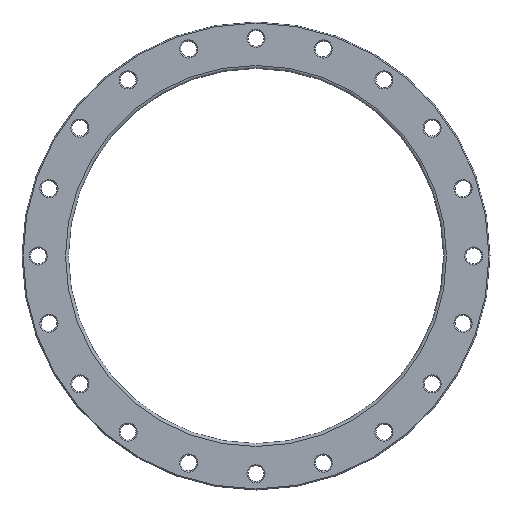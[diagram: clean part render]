
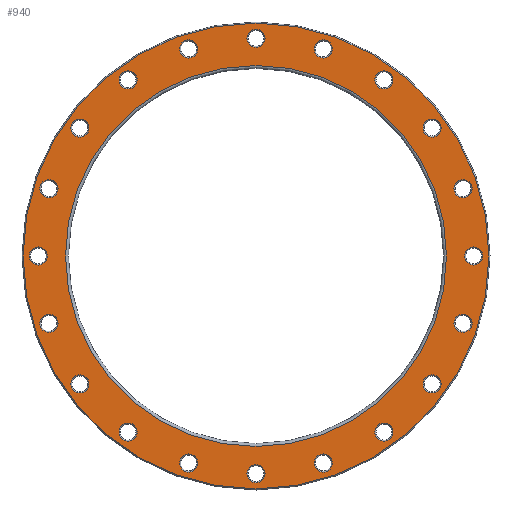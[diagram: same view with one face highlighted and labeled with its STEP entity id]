
A CAD part, front view. The second image highlights one B-rep face of the part: STEP entity #940.
In plain terms, the highlighted planar face has unit normal (0, -1, 0).
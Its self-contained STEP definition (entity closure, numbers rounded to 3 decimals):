
#23=PLANE('',#1104);
#206=ORIENTED_EDGE('',*,*,#325,.T.);
#207=ORIENTED_EDGE('',*,*,#326,.T.);
#208=ORIENTED_EDGE('',*,*,#244,.T.);
#209=ORIENTED_EDGE('',*,*,#248,.T.);
#210=ORIENTED_EDGE('',*,*,#252,.T.);
#211=ORIENTED_EDGE('',*,*,#256,.T.);
#212=ORIENTED_EDGE('',*,*,#260,.T.);
#213=ORIENTED_EDGE('',*,*,#264,.T.);
#214=ORIENTED_EDGE('',*,*,#268,.T.);
#215=ORIENTED_EDGE('',*,*,#272,.T.);
#216=ORIENTED_EDGE('',*,*,#276,.T.);
#217=ORIENTED_EDGE('',*,*,#280,.T.);
#218=ORIENTED_EDGE('',*,*,#284,.T.);
#219=ORIENTED_EDGE('',*,*,#288,.T.);
#220=ORIENTED_EDGE('',*,*,#292,.T.);
#221=ORIENTED_EDGE('',*,*,#296,.T.);
#222=ORIENTED_EDGE('',*,*,#300,.T.);
#223=ORIENTED_EDGE('',*,*,#304,.T.);
#224=ORIENTED_EDGE('',*,*,#308,.T.);
#225=ORIENTED_EDGE('',*,*,#312,.T.);
#226=ORIENTED_EDGE('',*,*,#316,.T.);
#227=ORIENTED_EDGE('',*,*,#327,.T.);
#244=EDGE_CURVE('',#332,#332,#420,.T.);
#248=EDGE_CURVE('',#336,#336,#424,.T.);
#252=EDGE_CURVE('',#340,#340,#428,.T.);
#256=EDGE_CURVE('',#344,#344,#432,.T.);
#260=EDGE_CURVE('',#348,#348,#436,.T.);
#264=EDGE_CURVE('',#352,#352,#440,.T.);
#268=EDGE_CURVE('',#356,#356,#444,.T.);
#272=EDGE_CURVE('',#360,#360,#448,.T.);
#276=EDGE_CURVE('',#364,#364,#452,.T.);
#280=EDGE_CURVE('',#368,#368,#456,.T.);
#284=EDGE_CURVE('',#372,#372,#460,.T.);
#288=EDGE_CURVE('',#376,#376,#464,.T.);
#292=EDGE_CURVE('',#380,#380,#468,.T.);
#296=EDGE_CURVE('',#384,#384,#472,.T.);
#300=EDGE_CURVE('',#388,#388,#476,.T.);
#304=EDGE_CURVE('',#392,#392,#480,.T.);
#308=EDGE_CURVE('',#396,#396,#484,.T.);
#312=EDGE_CURVE('',#400,#400,#488,.T.);
#316=EDGE_CURVE('',#404,#404,#492,.T.);
#325=EDGE_CURVE('',#413,#413,#501,.F.);
#326=EDGE_CURVE('',#414,#414,#502,.T.);
#327=EDGE_CURVE('',#415,#415,#503,.T.);
#332=VERTEX_POINT('',#1439);
#336=VERTEX_POINT('',#1450);
#340=VERTEX_POINT('',#1461);
#344=VERTEX_POINT('',#1472);
#348=VERTEX_POINT('',#1483);
#352=VERTEX_POINT('',#1494);
#356=VERTEX_POINT('',#1505);
#360=VERTEX_POINT('',#1516);
#364=VERTEX_POINT('',#1527);
#368=VERTEX_POINT('',#1538);
#372=VERTEX_POINT('',#1549);
#376=VERTEX_POINT('',#1560);
#380=VERTEX_POINT('',#1571);
#384=VERTEX_POINT('',#1582);
#388=VERTEX_POINT('',#1593);
#392=VERTEX_POINT('',#1604);
#396=VERTEX_POINT('',#1615);
#400=VERTEX_POINT('',#1626);
#404=VERTEX_POINT('',#1637);
#413=VERTEX_POINT('',#1660);
#414=VERTEX_POINT('',#1662);
#415=VERTEX_POINT('',#1664);
#420=CIRCLE('',#965,12.5);
#424=CIRCLE('',#972,12.5);
#428=CIRCLE('',#979,12.5);
#432=CIRCLE('',#986,12.5);
#436=CIRCLE('',#993,12.5);
#440=CIRCLE('',#1000,12.5);
#444=CIRCLE('',#1007,12.5);
#448=CIRCLE('',#1014,12.5);
#452=CIRCLE('',#1021,12.5);
#456=CIRCLE('',#1028,12.5);
#460=CIRCLE('',#1035,12.5);
#464=CIRCLE('',#1042,12.5);
#468=CIRCLE('',#1049,12.5);
#472=CIRCLE('',#1056,12.5);
#476=CIRCLE('',#1063,12.5);
#480=CIRCLE('',#1070,12.5);
#484=CIRCLE('',#1077,12.5);
#488=CIRCLE('',#1084,12.5);
#492=CIRCLE('',#1091,12.5);
#501=CIRCLE('',#1105,321.);
#502=CIRCLE('',#1106,262.5);
#503=CIRCLE('',#1107,12.5);
#646=EDGE_LOOP('',(#206));
#647=EDGE_LOOP('',(#207));
#648=EDGE_LOOP('',(#208));
#649=EDGE_LOOP('',(#209));
#650=EDGE_LOOP('',(#210));
#651=EDGE_LOOP('',(#211));
#652=EDGE_LOOP('',(#212));
#653=EDGE_LOOP('',(#213));
#654=EDGE_LOOP('',(#214));
#655=EDGE_LOOP('',(#215));
#656=EDGE_LOOP('',(#216));
#657=EDGE_LOOP('',(#217));
#658=EDGE_LOOP('',(#218));
#659=EDGE_LOOP('',(#219));
#660=EDGE_LOOP('',(#220));
#661=EDGE_LOOP('',(#221));
#662=EDGE_LOOP('',(#222));
#663=EDGE_LOOP('',(#223));
#664=EDGE_LOOP('',(#224));
#665=EDGE_LOOP('',(#225));
#666=EDGE_LOOP('',(#226));
#667=EDGE_LOOP('',(#227));
#822=FACE_BOUND('',#646,.T.);
#823=FACE_BOUND('',#647,.T.);
#824=FACE_BOUND('',#648,.T.);
#825=FACE_BOUND('',#649,.T.);
#826=FACE_BOUND('',#650,.T.);
#827=FACE_BOUND('',#651,.T.);
#828=FACE_BOUND('',#652,.T.);
#829=FACE_BOUND('',#653,.T.);
#830=FACE_BOUND('',#654,.T.);
#831=FACE_BOUND('',#655,.T.);
#832=FACE_BOUND('',#656,.T.);
#833=FACE_BOUND('',#657,.T.);
#834=FACE_BOUND('',#658,.T.);
#835=FACE_BOUND('',#659,.T.);
#836=FACE_BOUND('',#660,.T.);
#837=FACE_BOUND('',#661,.T.);
#838=FACE_BOUND('',#662,.T.);
#839=FACE_BOUND('',#663,.T.);
#840=FACE_BOUND('',#664,.T.);
#841=FACE_BOUND('',#665,.T.);
#842=FACE_BOUND('',#666,.T.);
#843=FACE_BOUND('',#667,.T.);
#940=ADVANCED_FACE('',(#822,#823,#824,#825,#826,#827,#828,#829,#830,#831,
#832,#833,#834,#835,#836,#837,#838,#839,#840,#841,#842,#843),#23,.F.);
#965=AXIS2_PLACEMENT_3D('',#1438,#1127,#1128);
#972=AXIS2_PLACEMENT_3D('',#1449,#1141,#1142);
#979=AXIS2_PLACEMENT_3D('',#1460,#1155,#1156);
#986=AXIS2_PLACEMENT_3D('',#1471,#1169,#1170);
#993=AXIS2_PLACEMENT_3D('',#1482,#1183,#1184);
#1000=AXIS2_PLACEMENT_3D('',#1493,#1197,#1198);
#1007=AXIS2_PLACEMENT_3D('',#1504,#1211,#1212);
#1014=AXIS2_PLACEMENT_3D('',#1515,#1225,#1226);
#1021=AXIS2_PLACEMENT_3D('',#1526,#1239,#1240);
#1028=AXIS2_PLACEMENT_3D('',#1537,#1253,#1254);
#1035=AXIS2_PLACEMENT_3D('',#1548,#1267,#1268);
#1042=AXIS2_PLACEMENT_3D('',#1559,#1281,#1282);
#1049=AXIS2_PLACEMENT_3D('',#1570,#1295,#1296);
#1056=AXIS2_PLACEMENT_3D('',#1581,#1309,#1310);
#1063=AXIS2_PLACEMENT_3D('',#1592,#1323,#1324);
#1070=AXIS2_PLACEMENT_3D('',#1603,#1337,#1338);
#1077=AXIS2_PLACEMENT_3D('',#1614,#1351,#1352);
#1084=AXIS2_PLACEMENT_3D('',#1625,#1365,#1366);
#1091=AXIS2_PLACEMENT_3D('',#1636,#1379,#1380);
#1104=AXIS2_PLACEMENT_3D('',#1658,#1405,#1406);
#1105=AXIS2_PLACEMENT_3D('',#1659,#1407,#1408);
#1106=AXIS2_PLACEMENT_3D('',#1661,#1409,#1410);
#1107=AXIS2_PLACEMENT_3D('',#1663,#1411,#1412);
#1127=DIRECTION('',(0.,1.,0.));
#1128=DIRECTION('',(0.951,0.,0.309));
#1141=DIRECTION('',(0.,1.,0.));
#1142=DIRECTION('',(0.809,0.,0.588));
#1155=DIRECTION('',(0.,1.,0.));
#1156=DIRECTION('',(0.588,0.,0.809));
#1169=DIRECTION('',(0.,1.,0.));
#1170=DIRECTION('',(0.309,0.,0.951));
#1183=DIRECTION('',(0.,1.,0.));
#1184=DIRECTION('',(0.,0.,1.));
#1197=DIRECTION('',(0.,1.,0.));
#1198=DIRECTION('',(-0.309,0.,0.951));
#1211=DIRECTION('',(0.,1.,0.));
#1212=DIRECTION('',(-0.588,0.,0.809));
#1225=DIRECTION('',(0.,1.,0.));
#1226=DIRECTION('',(-0.809,0.,0.588));
#1239=DIRECTION('',(0.,1.,0.));
#1240=DIRECTION('',(-0.951,0.,0.309));
#1253=DIRECTION('',(0.,1.,0.));
#1254=DIRECTION('',(-1.,0.,0.));
#1267=DIRECTION('',(0.,1.,0.));
#1268=DIRECTION('',(-0.951,0.,-0.309));
#1281=DIRECTION('',(0.,1.,0.));
#1282=DIRECTION('',(-0.809,0.,-0.588));
#1295=DIRECTION('',(0.,1.,0.));
#1296=DIRECTION('',(-0.588,0.,-0.809));
#1309=DIRECTION('',(0.,1.,0.));
#1310=DIRECTION('',(-0.309,0.,-0.951));
#1323=DIRECTION('',(0.,1.,0.));
#1324=DIRECTION('',(0.,0.,-1.));
#1337=DIRECTION('',(0.,1.,0.));
#1338=DIRECTION('',(0.309,0.,-0.951));
#1351=DIRECTION('',(0.,1.,0.));
#1352=DIRECTION('',(0.588,0.,-0.809));
#1365=DIRECTION('',(0.,1.,0.));
#1366=DIRECTION('',(0.809,0.,-0.588));
#1379=DIRECTION('',(0.,1.,0.));
#1380=DIRECTION('',(0.951,0.,-0.309));
#1405=DIRECTION('',(0.,1.,0.));
#1406=DIRECTION('',(0.,0.,1.));
#1407=DIRECTION('',(0.,1.,0.));
#1408=DIRECTION('',(0.,0.,1.));
#1409=DIRECTION('',(0.,1.,0.));
#1410=DIRECTION('',(0.,0.,1.));
#1411=DIRECTION('',(0.,1.,0.));
#1412=DIRECTION('',(1.,0.,0.));
#1438=CARTESIAN_POINT('',(-92.705,0.,285.317));
#1439=CARTESIAN_POINT('',(-80.817,0.,289.18));
#1449=CARTESIAN_POINT('',(-176.336,0.,242.705));
#1450=CARTESIAN_POINT('',(-166.223,0.,250.052));
#1460=CARTESIAN_POINT('',(-242.705,0.,176.336));
#1461=CARTESIAN_POINT('',(-235.358,0.,186.448));
#1471=CARTESIAN_POINT('',(-285.317,0.,92.705));
#1472=CARTESIAN_POINT('',(-281.454,0.,104.593));
#1482=CARTESIAN_POINT('',(-300.,0.,0.));
#1483=CARTESIAN_POINT('',(-300.,0.,12.5));
#1493=CARTESIAN_POINT('',(-285.317,0.,-92.705));
#1494=CARTESIAN_POINT('',(-289.18,0.,-80.817));
#1504=CARTESIAN_POINT('',(-242.705,0.,-176.336));
#1505=CARTESIAN_POINT('',(-250.052,0.,-166.223));
#1515=CARTESIAN_POINT('',(-176.336,0.,-242.705));
#1516=CARTESIAN_POINT('',(-186.448,0.,-235.358));
#1526=CARTESIAN_POINT('',(-92.705,0.,-285.317));
#1527=CARTESIAN_POINT('',(-104.593,0.,-281.454));
#1537=CARTESIAN_POINT('',(0.,0.,-300.));
#1538=CARTESIAN_POINT('',(-12.5,0.,-300.));
#1548=CARTESIAN_POINT('',(92.705,0.,-285.317));
#1549=CARTESIAN_POINT('',(80.817,0.,-289.18));
#1559=CARTESIAN_POINT('',(176.336,0.,-242.705));
#1560=CARTESIAN_POINT('',(166.223,0.,-250.052));
#1570=CARTESIAN_POINT('',(242.705,0.,-176.336));
#1571=CARTESIAN_POINT('',(235.358,0.,-186.448));
#1581=CARTESIAN_POINT('',(285.317,0.,-92.705));
#1582=CARTESIAN_POINT('',(281.454,0.,-104.593));
#1592=CARTESIAN_POINT('',(300.,0.,0.));
#1593=CARTESIAN_POINT('',(300.,0.,-12.5));
#1603=CARTESIAN_POINT('',(285.317,0.,92.705));
#1604=CARTESIAN_POINT('',(289.18,0.,80.817));
#1614=CARTESIAN_POINT('',(242.705,0.,176.336));
#1615=CARTESIAN_POINT('',(250.052,0.,166.223));
#1625=CARTESIAN_POINT('',(176.336,0.,242.705));
#1626=CARTESIAN_POINT('',(186.448,0.,235.358));
#1636=CARTESIAN_POINT('',(92.705,0.,285.317));
#1637=CARTESIAN_POINT('',(104.593,0.,281.454));
#1658=CARTESIAN_POINT('',(0.,0.,0.));
#1659=CARTESIAN_POINT('',(0.,0.,0.));
#1660=CARTESIAN_POINT('',(0.,0.,321.));
#1661=CARTESIAN_POINT('',(0.,0.,0.));
#1662=CARTESIAN_POINT('',(0.,0.,262.5));
#1663=CARTESIAN_POINT('',(0.,0.,300.));
#1664=CARTESIAN_POINT('',(12.5,0.,300.));
